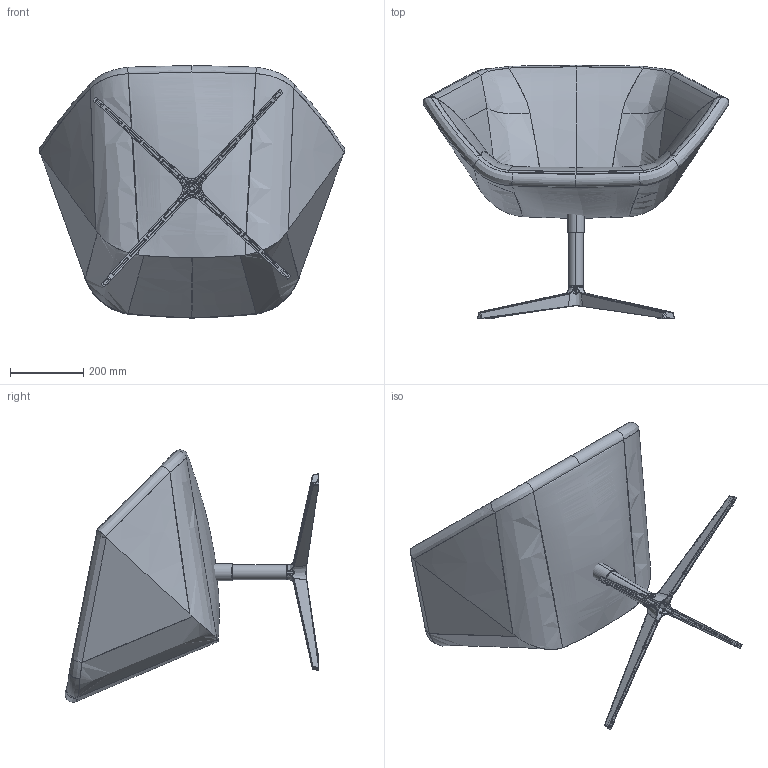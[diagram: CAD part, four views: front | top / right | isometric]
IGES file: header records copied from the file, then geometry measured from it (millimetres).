
Start section: SolidWorks IGES file using analytic representation for surfaces
Global section: file name: G:\Product Info\Ella\3D\IGS\Ella draaivoet.IGS; native system: SolidWorks 2010; preprocessor: SolidWorks 2010; author: gerard; date: 100129.121755; units: millimetre
Bounding box: 834.19 x 691.95 x 687.8 mm (x, y, z)
Surface area: 1671577.2 mm2 (no closed solid volume)
Topology: 0 solids, 0 shells, 886 faces, 13689 edges, 15716 vertices
Faces by surface type: bspline 668, revolution 218
